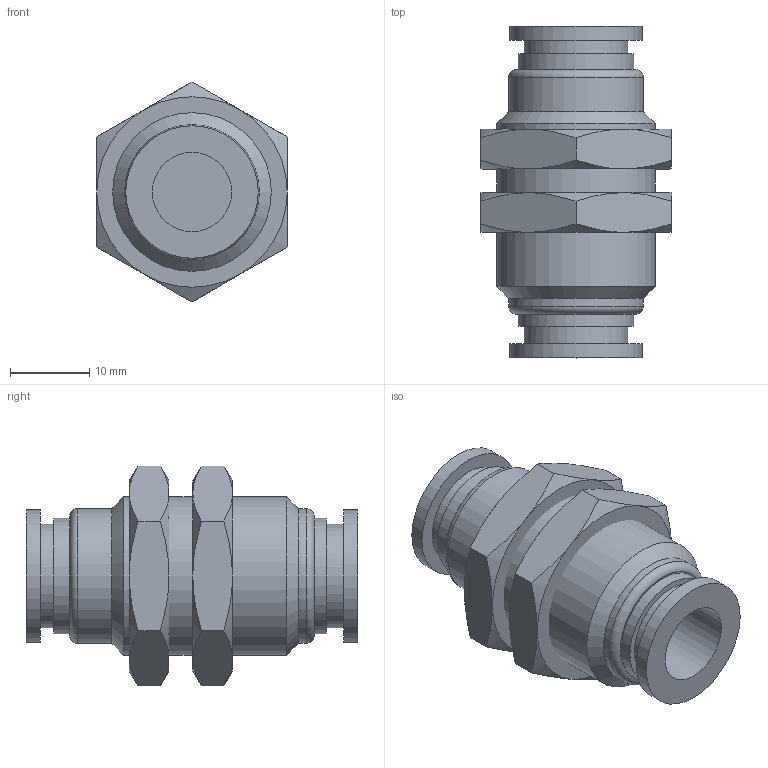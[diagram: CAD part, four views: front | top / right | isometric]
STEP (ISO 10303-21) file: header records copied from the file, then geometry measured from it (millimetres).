
FILE_DESCRIPTION(/* description */ (''),/* implementation_level */ '2;1');
FILE_NAME(/* name */ 'S:\UTecnico\ArchivioUT\Speciali Clienti\Speciali KONFIT\DISEGNI 3D\RP\RP 60\RP600010.stp',/* time_stamp */ '2015-01-19T17:57:30+01:00',/* author */ ('UT5'),/* organization */ (''),/* preprocessor_version */ 'ST-DEVELOPER v15.2',/* originating_system */ 'Autodesk Inventor 2014',/* authorisation */ '');
FILE_SCHEMA (('AUTOMOTIVE_DESIGN { 1 0 10303 214 3 1 1 }'));
Length unit declared in the file: millimetre
Products named in the file (1): RP600010
Bounding box: 24 x 41.8 x 27.71 mm (x, y, z)
Volume: 12420.5 mm3; surface area: 7074.9 mm2
Topology: 3 solids, 3 shells, 62 faces, 121 edges, 71 vertices
Faces by surface type: cone 26, plane 24, cylinder 10, torus 2
Full cylindrical faces by diameter (mm): 10 x1, 13 x2, 14.6 x2, 16.7 x2, 17 x2, 20 x1
Entity records: 1471 total; most frequent: CARTESIAN_POINT 335, DIRECTION 230, ORIENTED_EDGE 212, AXIS2_PLACEMENT_3D 109, EDGE_CURVE 106, EDGE_LOOP 84, VERTEX_POINT 70, ADVANCED_FACE 62
